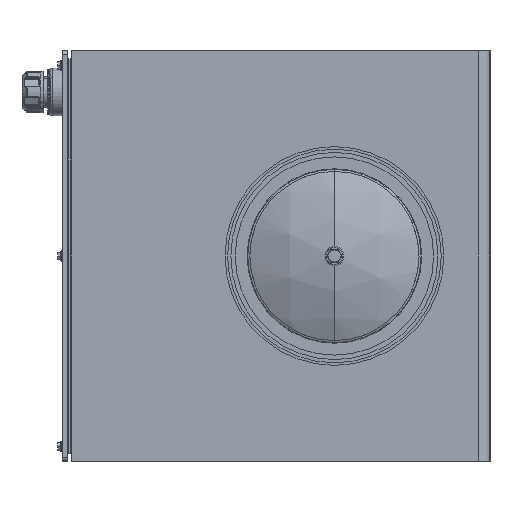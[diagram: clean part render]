
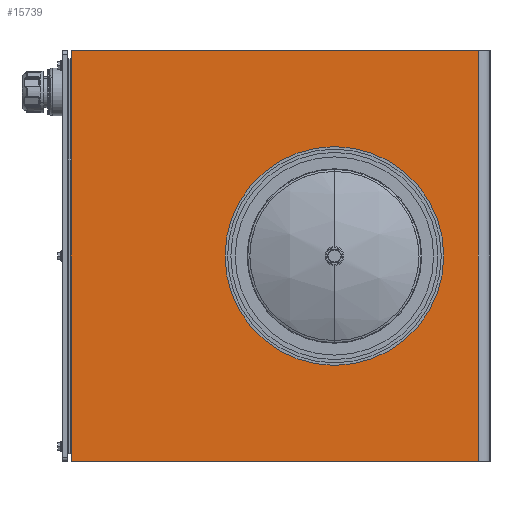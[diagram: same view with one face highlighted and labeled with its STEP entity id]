
A CAD part, left-side view. The second image highlights one B-rep face of the part: STEP entity #15739.
In plain terms, the highlighted planar face has unit normal (-1, 0, 0).
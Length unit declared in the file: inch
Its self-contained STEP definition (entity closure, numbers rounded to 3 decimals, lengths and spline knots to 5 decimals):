
#418 = PLANE ( 'NONE',  #31526 ) ;
#423 = CARTESIAN_POINT ( 'NONE',  ( -36.17793, 12.24994, -11.4136 ) ) ;
#758 = CARTESIAN_POINT ( 'NONE',  ( -36.17793, -7.00006, 3.5864 ) ) ;
#1155 = CARTESIAN_POINT ( 'NONE',  ( -36.17793, 12.24994, -11.4136 ) ) ;
#1795 = VERTEX_POINT ( 'NONE', #19077 ) ;
#2829 = AXIS2_PLACEMENT_3D ( 'NONE', #9703, #28175, #12334 ) ;
#3395 = DIRECTION ( 'NONE',  ( 0., 0., 1. ) ) ;
#3923 = DIRECTION ( 'NONE',  ( 0., 0., -1. ) ) ;
#4709 = VERTEX_POINT ( 'NONE', #423 ) ;
#5201 = CARTESIAN_POINT ( 'NONE',  ( -36.17793, -7.00006, 10.3364 ) ) ;
#6133 = LINE ( 'NONE', #24331, #26391 ) ;
#6362 = ORIENTED_EDGE ( 'NONE', *, *, #11953, .F. ) ;
#6448 = VERTEX_POINT ( 'NONE', #14598 ) ;
#6647 = AXIS2_PLACEMENT_3D ( 'NONE', #27729, #11877, #30384 ) ;
#6794 = ORIENTED_EDGE ( 'NONE', *, *, #32217, .T. ) ;
#7388 = CIRCLE ( 'NONE', #6647, 6.75 ) ;
#7424 = CIRCLE ( 'NONE', #22787, 6.75 ) ;
#7447 = CARTESIAN_POINT ( 'NONE',  ( -36.17793, -18.38006, -11.4136 ) ) ;
#7975 = CARTESIAN_POINT ( 'NONE',  ( -36.17793, -7.00006, -3.1636 ) ) ;
#8377 = DIRECTION ( 'NONE',  ( 1., 0., 0. ) ) ;
#8625 = CARTESIAN_POINT ( 'NONE',  ( -36.17793, -12.00006, -0.94819 ) ) ;
#9703 = CARTESIAN_POINT ( 'NONE',  ( -36.17793, -7.00006, 3.5864 ) ) ;
#9908 = DIRECTION ( 'NONE',  ( 0., 0., 1. ) ) ;
#9976 = CARTESIAN_POINT ( 'NONE',  ( -36.17793, -12.13006, 3.5864 ) ) ;
#10116 = DIRECTION ( 'NONE',  ( 0., -1., 0. ) ) ;
#10344 = ORIENTED_EDGE ( 'NONE', *, *, #29890, .T. ) ;
#11017 = VECTOR ( 'NONE', #10116, 39.37008 ) ;
#11422 = EDGE_CURVE ( 'NONE', #25855, #16774, #7424, .T. ) ;
#11822 = LINE ( 'NONE', #7447, #11017 ) ;
#11877 = DIRECTION ( 'NONE',  ( -1., 0., 0. ) ) ;
#11953 = EDGE_CURVE ( 'NONE', #16774, #15103, #7388, .T. ) ;
#12334 = DIRECTION ( 'NONE',  ( 0., 0., 1. ) ) ;
#13774 = CARTESIAN_POINT ( 'NONE',  ( -36.17793, -12.13006, 3.5864 ) ) ;
#14598 = CARTESIAN_POINT ( 'NONE',  ( -36.17793, -12.13006, 3.5864 ) ) ;
#14736 = LINE ( 'NONE', #23085, #20939 ) ;
#15103 = VERTEX_POINT ( 'NONE', #7975 ) ;
#15452 = EDGE_LOOP ( 'NONE', ( #32299, #26585, #33167, #6362, #24550 ) ) ;
#15739 = ADVANCED_FACE ( 'NONE', ( #19293, #26333 ), #418, .F. ) ;
#16149 = ORIENTED_EDGE ( 'NONE', *, *, #31235, .T. ) ;
#16223 = CARTESIAN_POINT ( 'NONE',  ( -36.17793, -12.00006, 8.12099 ) ) ;
#16337 = EDGE_CURVE ( 'NONE', #6448, #25855, #33290, .T. ) ;
#16491 = EDGE_LOOP ( 'NONE', ( #6794, #10344, #33038, #16149 ) ) ;
#16774 = VERTEX_POINT ( 'NONE', #5201 ) ;
#17165 = CIRCLE ( 'NONE', #2829, 6.75 ) ;
#19062 = DIRECTION ( 'NONE',  ( 0., 0.029, 1. ) ) ;
#19077 = CARTESIAN_POINT ( 'NONE',  ( -36.17793, -17.53626, -11.4136 ) ) ;
#19223 = DIRECTION ( 'NONE',  ( -1., 0., 0. ) ) ;
#19293 = FACE_BOUND ( 'NONE', #15452, .T. ) ;
#19567 = EDGE_CURVE ( 'NONE', #32389, #6448, #33934, .T. ) ;
#20010 = CARTESIAN_POINT ( 'NONE',  ( -36.17793, 12.24994, 18.5864 ) ) ;
#20043 = VERTEX_POINT ( 'NONE', #20010 ) ;
#20569 = EDGE_CURVE ( 'NONE', #20043, #4709, #33051, .T. ) ;
#20939 = VECTOR ( 'NONE', #9908, 39.37008 ) ;
#22787 = AXIS2_PLACEMENT_3D ( 'NONE', #758, #19223, #3395 ) ;
#23085 = CARTESIAN_POINT ( 'NONE',  ( -36.17793, -17.53626, -11.4136 ) ) ;
#24331 = CARTESIAN_POINT ( 'NONE',  ( -36.17793, -18.38006, 18.5864 ) ) ;
#24550 = ORIENTED_EDGE ( 'NONE', *, *, #11422, .F. ) ;
#25021 = EDGE_CURVE ( 'NONE', #15103, #32389, #17165, .T. ) ;
#25855 = VERTEX_POINT ( 'NONE', #16223 ) ;
#26333 = FACE_OUTER_BOUND ( 'NONE', #16491, .T. ) ;
#26391 = VECTOR ( 'NONE', #26989, 39.37008 ) ;
#26585 = ORIENTED_EDGE ( 'NONE', *, *, #19567, .F. ) ;
#26883 = DIRECTION ( 'NONE',  ( 0., 0., -1. ) ) ;
#26975 = VECTOR ( 'NONE', #33754, 39.37008 ) ;
#26989 = DIRECTION ( 'NONE',  ( 0., 1., 0. ) ) ;
#27729 = CARTESIAN_POINT ( 'NONE',  ( -36.17793, -7.00006, 3.5864 ) ) ;
#28175 = DIRECTION ( 'NONE',  ( -1., 0., 0. ) ) ;
#29890 = EDGE_CURVE ( 'NONE', #33678, #20043, #6133, .T. ) ;
#30384 = DIRECTION ( 'NONE',  ( 0., 0., 1. ) ) ;
#30940 = CARTESIAN_POINT ( 'NONE',  ( -36.17793, -17.53626, 18.5864 ) ) ;
#31235 = EDGE_CURVE ( 'NONE', #4709, #1795, #11822, .T. ) ;
#31526 = AXIS2_PLACEMENT_3D ( 'NONE', #32042, #8377, #26883 ) ;
#32042 = CARTESIAN_POINT ( 'NONE',  ( -36.17793, 12.24994, -11.4136 ) ) ;
#32217 = EDGE_CURVE ( 'NONE', #1795, #33678, #14736, .T. ) ;
#32222 = VECTOR ( 'NONE', #3923, 39.37008 ) ;
#32299 = ORIENTED_EDGE ( 'NONE', *, *, #16337, .F. ) ;
#32389 = VERTEX_POINT ( 'NONE', #8625 ) ;
#33038 = ORIENTED_EDGE ( 'NONE', *, *, #20569, .T. ) ;
#33051 = LINE ( 'NONE', #1155, #32222 ) ;
#33167 = ORIENTED_EDGE ( 'NONE', *, *, #25021, .F. ) ;
#33290 = LINE ( 'NONE', #13774, #34118 ) ;
#33678 = VERTEX_POINT ( 'NONE', #30940 ) ;
#33754 = DIRECTION ( 'NONE',  ( 0., -0.029, 1. ) ) ;
#33934 = LINE ( 'NONE', #9976, #26975 ) ;
#34118 = VECTOR ( 'NONE', #19062, 39.37008 ) ;
